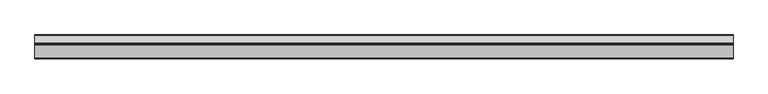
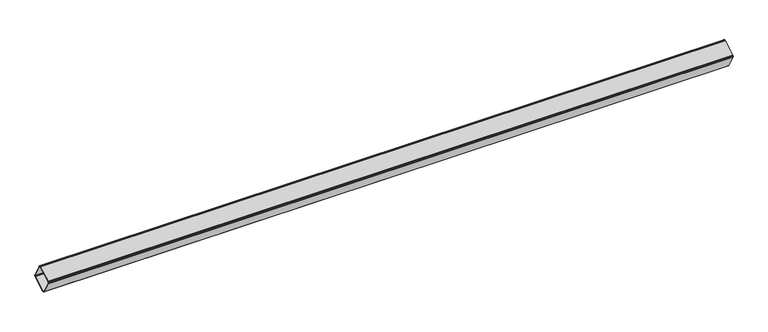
"""IFC4 building model written with IfcOpenShell, lengths in millimetres: beam geometry, Buton 174104 : Buton 174104."""

from ifc_helpers import new_model, si_unit, frame, origin, place, context, project, spatial, polyline, outline, extrude, source, transform, mapped, element, save


def beam_48dc5296(model_context):
    return source(origin(), model_context, "Body", "SweptSolid", [
        extrude(outline(polyline([(-36513.5277892, 9379.5054949), (-36440.153053, 9420.3974024), (-36437.8030118, 9421.2588385), (-36435.3017914, 9421.3519102), (-36432.8942286, 9420.6675071), (-36430.8159926, 9419.2726233), (-36429.2705155, 9417.3037996), (-36388.3786081, 9343.9290635), (-36387.517172, 9341.5790223), (-36387.4241002, 9339.0778018), (-36388.1085034, 9336.6702391), (-36389.5033872, 9334.5920031), (-36391.4722108, 9333.046526), (-36464.846947, 9292.1546186), (-36467.1969882, 9291.2931825), (-36469.6982086, 9291.2001107), (-36472.1057714, 9291.8845138), (-36474.1840074, 9293.2793977), (-36475.7294845, 9295.2482213), (-36516.6213919, 9368.6229575), (-36517.482828, 9370.9729987), (-36517.5758998, 9373.4742191), (-36516.8914966, 9375.8817818), (-36515.4966128, 9377.9600178), (-36513.5277892, 9379.5054949)]), holes=[polyline([(-36513.1273569, 9370.5701911), (-36472.2354494, 9297.195455), (-36471.4627109, 9296.2110432), (-36470.4235929, 9295.5136012), (-36469.2198115, 9295.1713997), (-36467.9692013, 9295.2179356), (-36466.7941807, 9295.6486536), (-36393.4194445, 9336.540561), (-36392.4350327, 9337.3132996), (-36391.7375908, 9338.3524176), (-36391.3953892, 9339.556199), (-36391.4419251, 9340.8068092), (-36391.8726431, 9341.9818298), (-36432.7645506, 9415.356566), (-36433.5372891, 9416.3409778), (-36434.5764071, 9417.0384197), (-36435.7801885, 9417.3806212), (-36437.0307987, 9417.3340854), (-36438.2058193, 9416.9033673), (-36511.5805555, 9376.0114599), (-36512.5649673, 9375.2387213), (-36513.2624092, 9374.1996033), (-36513.6046108, 9372.995822), (-36513.5580749, 9371.7452118), (-36513.1273569, 9370.5701911)])]), frame((11547.4999999, 0.0, 0.0), z_axis=(1.0, 0.0, 0.0), x_axis=(0.0, 1.0, 0.0)), (0.0, 0.0, 1.0), 3792.5),
    ])


if __name__ == "__main__":
    model = new_model("IFC4")
    model_context = context("Model", 3, world=origin())
    ifc_project = project(units=[si_unit("LENGTHUNIT", "METRE", prefix="MILLI")], contexts=[model_context])
    site = spatial("IfcSite", under=ifc_project)
    building = spatial("IfcBuilding", under=site)
    placement = place(None, origin())
    beam_shape = beam_48dc5296(model_context)
    element("IfcBeam", 1, ObjectType="Buton 174104 : Buton 174104", at=placement, inside=building, context=model_context, shape_type="MappedRepresentation", body=[
        mapped(beam_shape, transform((0.0, 0.0, 0.0), x_axis=(1.0, 0.0, 0.0), y_axis=(0.0, 1.0, 0.0), z_axis=(0.0, 0.0, 1.0))),
    ])
    save(model, "model.ifc")
